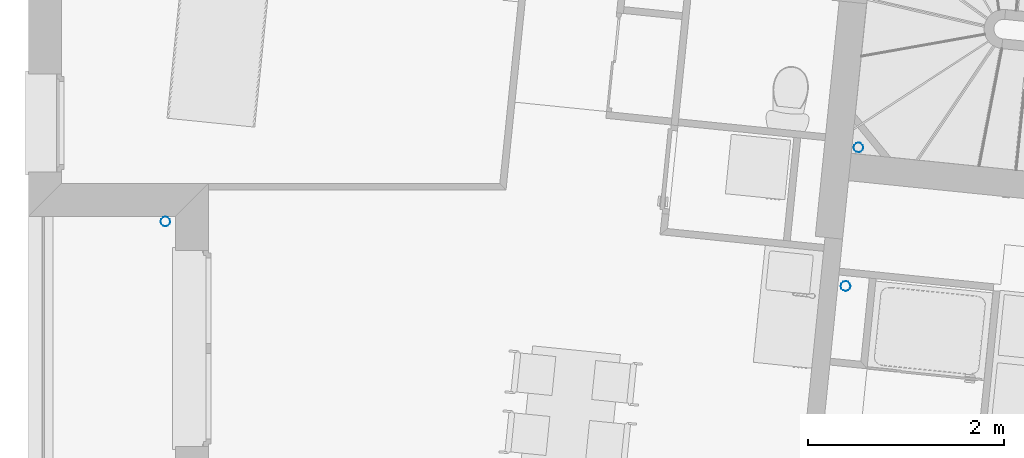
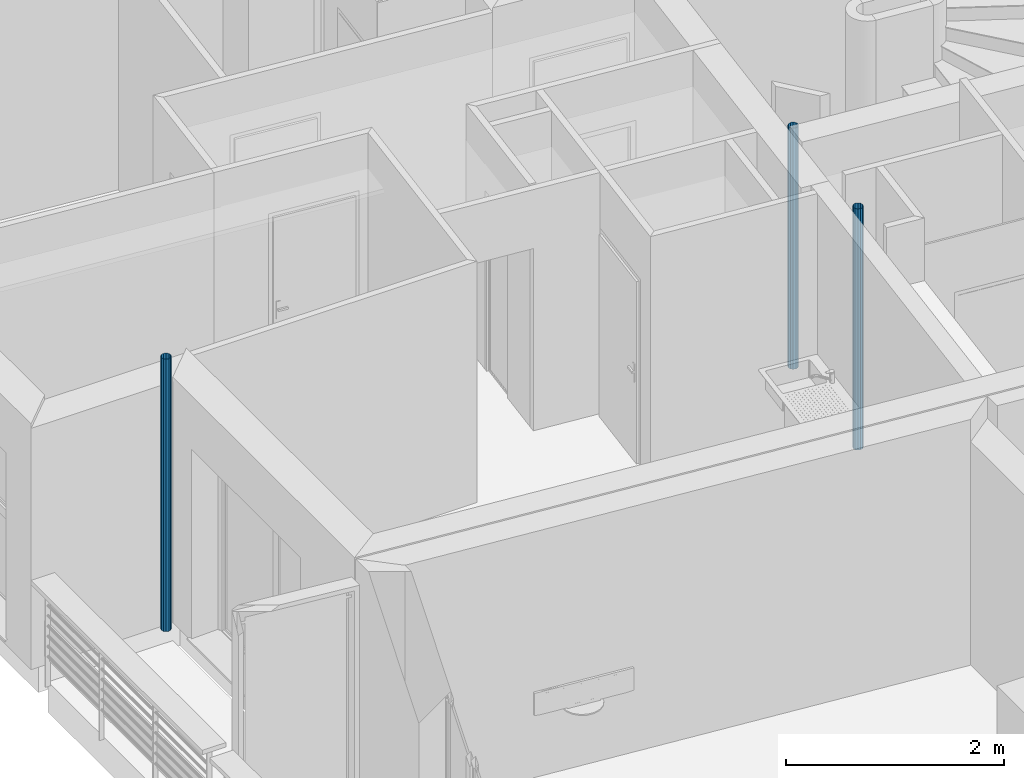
# One storey, part 95 of 171: 3 discrete accessories.
"""IFC2X3 building model written with IfcOpenShell, lengths in millimetres."""

from ifc_helpers import new_model, entity, si_unit, converted_unit, derived_unit, money_unit, direction, frame, origin_with_axes, place, context, subcontext, project, spatial, open_shell, surface_model, source, transform, mapped, type_object, element, save


model = new_model("IFC2X3")

# Units and contexts
model_context = context("Model", 3, precision=0.01, world=origin_with_axes(), true_north=direction((0.0, 1.0)))
body_context = subcontext(model_context, "Body", "Model", "MODEL_VIEW")
ifc_project = project(units=[si_unit("LENGTHUNIT", "METRE", prefix="MILLI"), si_unit("AREAUNIT", "SQUARE_METRE"), si_unit("VOLUMEUNIT", "CUBIC_METRE"), converted_unit("PLANEANGLEUNIT", "DEGREE", entity("IfcPlaneAngleMeasure", 0.0174532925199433), si_unit("PLANEANGLEUNIT", "RADIAN"), dimensions=[0, 0, 0, 0, 0, 0, 0]), money_unit("USD"), converted_unit("TIMEUNIT", "Year", entity("IfcTimeMeasure", 31557600.0), si_unit("TIMEUNIT", "SECOND"), dimensions=[0, 0, 1, 0, 0, 0, 0]), si_unit("MASSUNIT", "GRAM", prefix="KILO"), si_unit("THERMODYNAMICTEMPERATUREUNIT", "DEGREE_CELSIUS"), si_unit("LUMINOUSINTENSITYUNIT", "LUMEN"), si_unit("ENERGYUNIT", "JOULE", prefix="MEGA"), derived_unit("THERMALCONDUCTANCEUNIT", [(si_unit("POWERUNIT", "WATT"), 1), (si_unit("LENGTHUNIT", "METRE"), -1), (si_unit("THERMODYNAMICTEMPERATUREUNIT", "KELVIN"), -1)]), derived_unit("SPECIFICHEATCAPACITYUNIT", [(si_unit("ENERGYUNIT", "JOULE"), 1), (si_unit("MASSUNIT", "GRAM", prefix="KILO"), -1), (si_unit("THERMODYNAMICTEMPERATUREUNIT", "KELVIN"), -1)]), derived_unit("MASSDENSITYUNIT", [(si_unit("MASSUNIT", "GRAM", prefix="KILO"), 1), (si_unit("VOLUMEUNIT", "CUBIC_METRE"), -1)])], contexts=[model_context])

# Site, building, storey
site_placement = place(None, origin_with_axes())
site = spatial("IfcSite", under=ifc_project, at=site_placement, Name="Site", CompositionType="ELEMENT")
building_placement = place(site_placement, origin_with_axes())
building = spatial("IfcBuilding", under=site, at=building_placement, Name="Bâtiment", CompositionType="ELEMENT")
storey_placement = place(building_placement, frame((0.0, 0.0, 3000.0), z_axis=(0.0, 0.0, 1.0), x_axis=(1.0, 0.0, 0.0)))
storey = spatial("IfcBuildingStorey", under=building, at=storey_placement, Name="rdc", CompositionType="ELEMENT", Elevation=3000.0)

# Discrete accessories
discrete_accessory_type = type_object("IfcDiscreteAccessoryType", Name="Tuyau descente 27")
shared_shape_1 = source(origin_with_axes(), body_context, "Body", "SurfaceModel", [
    surface_model("IfcShellBasedSurfaceModel", [(50.0, 0.0, 2700.0), (43.30127018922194, -25.0, 2700.0), (43.30127018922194, -25.0, 0.0), (50.0, 0.0, 0.0), (25.00000000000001, -43.30127018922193, 2700.0), (25.00000000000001, -43.30127018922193, 0.0), (43.30127018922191, 25.00000000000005, 2700.0), (43.30127018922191, 25.00000000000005, 0.0), (0.0, -50.0, 2700.0), (0.0, -50.0, 0.0), (24.99999999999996, 43.30127018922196, 2700.0), (24.99999999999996, 43.30127018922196, 0.0), (-24.99999999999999, -43.30127018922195, 2700.0), (-24.99999999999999, -43.30127018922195, 0.0), (0.0, 50.0, 2700.0), (0.0, 50.0, 0.0), (-43.30127018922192, -25.00000000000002, 2700.0), (-43.30127018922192, -25.00000000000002, 0.0), (-25.00000000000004, 43.30127018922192, 2700.0), (-25.00000000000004, 43.30127018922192, 0.0), (-50.0, 0.0, 2700.0), (-50.0, 0.0, 0.0), (-43.30127018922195, 24.99999999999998, 2700.0), (-43.30127018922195, 24.99999999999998, 0.0)], [open_shell([[[0, 1, 2, 3]], [[1, 4, 5, 2]], [[6, 0, 3, 7]], [[4, 8, 9, 5]], [[10, 6, 7, 11]], [[8, 12, 13, 9]], [[14, 10, 11, 15]], [[12, 16, 17, 13]], [[18, 14, 15, 19]], [[16, 20, 21, 17]], [[22, 18, 19, 23]], [[20, 22, 23, 21]]])]),
])
for number, where, z_axis, x_axis, name in (
    (1, (2225110.857773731, -616801.4339572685, 0.0), (0.0, 0.0, 1.0), (1.0, 0.0, 0.0), "Obj.-318"),
    (2, (2224979.771905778, -618217.0631534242, 0.0), (0.0, 0.0, 1.0), (1.0, 0.0, 0.0), "Obj.-318"),
):
    element("IfcDiscreteAccessory", number, at=place(storey_placement, frame(where, z_axis=z_axis, x_axis=x_axis)), inside=storey, type_object=discrete_accessory_type, Name=name, context=body_context, shape_type="MappedRepresentation", body=[
        mapped(shared_shape_1, transform((0.0, 0.0, 0.0))),
    ])
shared_shape_2 = source(origin_with_axes(), body_context, "Body", "SurfaceModel", [
    surface_model("IfcShellBasedSurfaceModel", [(50.0, 0.0, 3050.0), (43.30127018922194, -25.0, 3050.0), (43.30127018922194, -25.0, 0.0), (50.0, 0.0, 0.0), (25.00000000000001, -43.30127018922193, 3050.0), (25.00000000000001, -43.30127018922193, 0.0), (43.30127018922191, 25.00000000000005, 3050.0), (43.30127018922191, 25.00000000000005, 0.0), (0.0, -50.0, 3050.0), (0.0, -50.0, 0.0), (24.99999999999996, 43.30127018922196, 3050.0), (24.99999999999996, 43.30127018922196, 0.0), (-24.99999999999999, -43.30127018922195, 3050.0), (-24.99999999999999, -43.30127018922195, 0.0), (0.0, 50.0, 3050.0), (0.0, 50.0, 0.0), (-43.30127018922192, -25.00000000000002, 3050.0), (-43.30127018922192, -25.00000000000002, 0.0), (-25.00000000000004, 43.30127018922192, 3050.0), (-25.00000000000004, 43.30127018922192, 0.0), (-50.0, 0.0, 3050.0), (-50.0, 0.0, 0.0), (-43.30127018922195, 24.99999999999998, 3050.0), (-43.30127018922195, 24.99999999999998, 0.0)], [open_shell([[[0, 1, 2, 3]], [[1, 4, 5, 2]], [[6, 0, 3, 7]], [[4, 8, 9, 5]], [[10, 6, 7, 11]], [[8, 12, 13, 9]], [[14, 10, 11, 15]], [[12, 16, 17, 13]], [[18, 14, 15, 19]], [[16, 20, 21, 17]], [[22, 18, 19, 23]], [[20, 22, 23, 21]]])]),
])
discrete_accessory_placement = place(storey_placement, frame((2218034.158908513, -617557.5058083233, 0.0), z_axis=(0.0, 0.0, 1.0), x_axis=(1.0, 0.0, 0.0)))
element("IfcDiscreteAccessory", 3, at=discrete_accessory_placement, inside=storey, type_object=discrete_accessory_type, Name="Obj.-318", context=body_context, shape_type="MappedRepresentation", body=[
    mapped(shared_shape_2, transform((0.0, 0.0, 0.0))),
])

save(model, "model.ifc")
